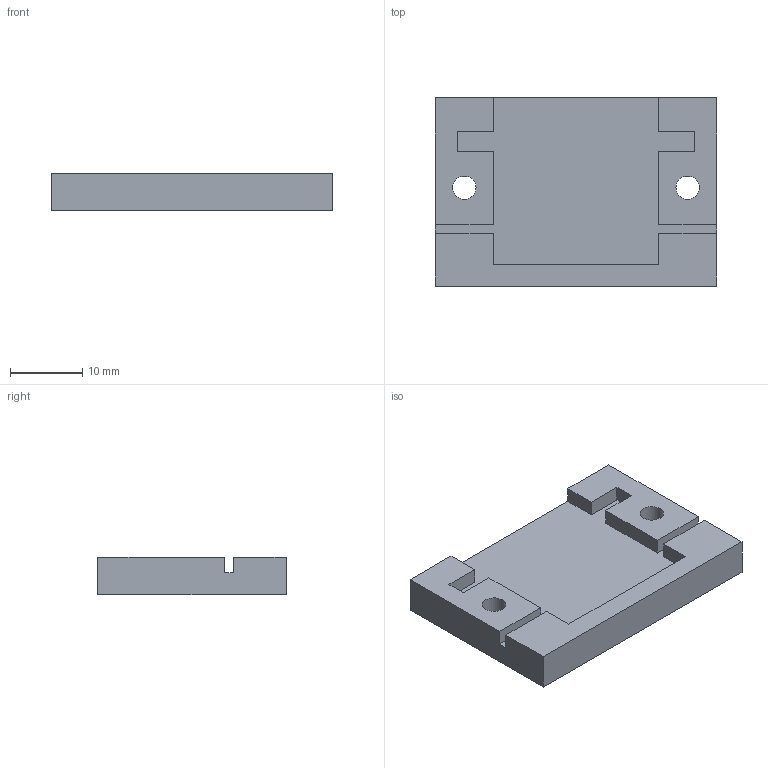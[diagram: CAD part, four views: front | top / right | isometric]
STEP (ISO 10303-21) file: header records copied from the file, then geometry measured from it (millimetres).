
FILE_DESCRIPTION(/* description */ (''),/* implementation_level */ '2;1');
FILE_NAME(/* name */ 'New Servo Cage - Short_v4.tmp.step',/* time_stamp */ '2026-11-01T13:10:26+02:00',/* author */ (''),/* organization */ (''),/* preprocessor_version */ 'ST-DEVELOPER v20.2',/* originating_system */ 'Autodesk Translation Framework v15.15.0.0',/* authorisation */ '');
FILE_SCHEMA (('AUTOMOTIVE_DESIGN { 1 0 10303 214 3 1 1 }'));
Length unit declared in the file: millimetre
Products named in the file (1): New Servo Cage - Short
Bounding box: 38.8 x 26 x 5.15 mm (x, y, z)
Volume: 3883.5 mm3; surface area: 2956.8 mm2
Topology: 1 solids, 1 shells, 28 faces, 78 edges, 52 vertices
Faces by surface type: plane 26, cylinder 2
Full cylindrical faces by diameter (mm): 3.2 x2
Entity records: 927 total; most frequent: CARTESIAN_POINT 159, ORIENTED_EDGE 156, DIRECTION 140, EDGE_CURVE 78, LINE 74, VECTOR 74, VERTEX_POINT 52, AXIS2_PLACEMENT_3D 33
